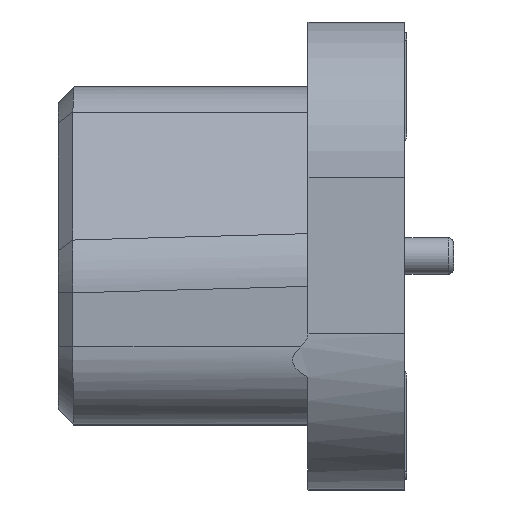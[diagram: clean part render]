
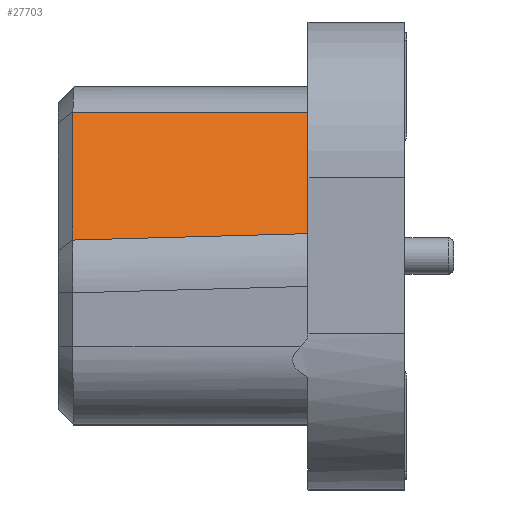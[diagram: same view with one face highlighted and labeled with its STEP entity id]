
A CAD part, left-side view. The second image highlights one B-rep face of the part: STEP entity #27703.
In plain terms, the highlighted planar face has unit normal (-0.733, 0.07, 0.677).
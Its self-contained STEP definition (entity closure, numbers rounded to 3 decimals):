
#1124 = DIRECTION ( 'NONE',  ( 0.095, 0.996, 0. ) ) ;
#1245 = LINE ( 'NONE', #30835, #31406 ) ;
#2170 = ORIENTED_EDGE ( 'NONE', *, *, #11427, .T. ) ;
#2888 = VECTOR ( 'NONE', #33336, 1000. ) ;
#6700 = CARTESIAN_POINT ( 'NONE',  ( -12.173, 1.318, 2.765 ) ) ;
#7723 = VERTEX_POINT ( 'NONE', #6700 ) ;
#8902 = EDGE_CURVE ( 'NONE', #16382, #27830, #25157, .T. ) ;
#9022 = CARTESIAN_POINT ( 'NONE',  ( -11.743, 5.839, 2.765 ) ) ;
#9530 = LINE ( 'NONE', #19678, #26056 ) ;
#11427 = EDGE_CURVE ( 'NONE', #7723, #16382, #9530, .T. ) ;
#11568 = EDGE_LOOP ( 'NONE', ( #2170, #12972, #20885, #33152 ) ) ;
#12809 = FACE_OUTER_BOUND ( 'NONE', #11568, .T. ) ;
#12972 = ORIENTED_EDGE ( 'NONE', *, *, #8902, .T. ) ;
#15599 = PLANE ( 'NONE',  #20184 ) ;
#16382 = VERTEX_POINT ( 'NONE', #9022 ) ;
#16884 = CARTESIAN_POINT ( 'NONE',  ( -14.328, 1.318, 0.43 ) ) ;
#18398 = DIRECTION ( 'NONE',  ( -0.733, 0.07, 0.677 ) ) ;
#18914 = CARTESIAN_POINT ( 'NONE',  ( -14.012, 5.839, 0.306 ) ) ;
#19678 = CARTESIAN_POINT ( 'NONE',  ( -12.169, 1.36, 2.765 ) ) ;
#19706 = CARTESIAN_POINT ( 'NONE',  ( -11.493, 5.839, 3.036 ) ) ;
#20184 = AXIS2_PLACEMENT_3D ( 'NONE', #20856, #18398, #26633 ) ;
#20856 = CARTESIAN_POINT ( 'NONE',  ( -11.725, 1.318, 3.25 ) ) ;
#20885 = ORIENTED_EDGE ( 'NONE', *, *, #28669, .T. ) ;
#22870 = DIRECTION ( 'NONE',  ( -0.678, 0., -0.735 ) ) ;
#25157 = LINE ( 'NONE', #19706, #34560 ) ;
#26056 = VECTOR ( 'NONE', #1124, 1000. ) ;
#26633 = DIRECTION ( 'NONE',  ( 0.095, 0.996, 0. ) ) ;
#27703 = ADVANCED_FACE ( 'NONE', ( #12809 ), #15599, .T. ) ;
#27830 = VERTEX_POINT ( 'NONE', #18914 ) ;
#28669 = EDGE_CURVE ( 'NONE', #27830, #31379, #31043, .T. ) ;
#29013 = EDGE_CURVE ( 'NONE', #7723, #31379, #1245, .T. ) ;
#30835 = CARTESIAN_POINT ( 'NONE',  ( -11.725, 1.318, 3.25 ) ) ;
#31043 = LINE ( 'NONE', #33514, #2888 ) ;
#31379 = VERTEX_POINT ( 'NONE', #16884 ) ;
#31406 = VECTOR ( 'NONE', #33116, 1000. ) ;
#33116 = DIRECTION ( 'NONE',  ( -0.678, 0., -0.735 ) ) ;
#33152 = ORIENTED_EDGE ( 'NONE', *, *, #29013, .F. ) ;
#33336 = DIRECTION ( 'NONE',  ( -0.07, -0.997, 0.027 ) ) ;
#33514 = CARTESIAN_POINT ( 'NONE',  ( -14.321, 1.422, 0.427 ) ) ;
#34560 = VECTOR ( 'NONE', #22870, 1000. ) ;
